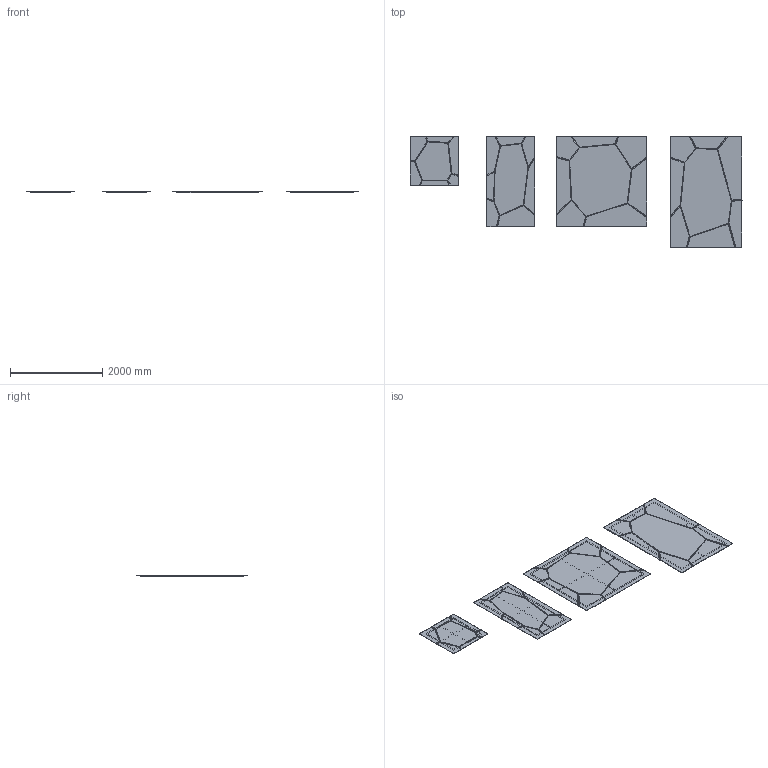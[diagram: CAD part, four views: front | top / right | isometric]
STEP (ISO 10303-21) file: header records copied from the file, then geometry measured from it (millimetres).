
FILE_DESCRIPTION(/* description */ (''),/* implementation_level */ '2;1');
FILE_NAME(/* name */ 'specchi-Levy',/* time_stamp */ '2023-03-08T17:57:36+01:00',/* author */ (''),/* organization */ (''),/* preprocessor_version */ 'ST-DEVELOPER v16.5',/* originating_system */ '',/* authorisation */ '');
FILE_SCHEMA (('AUTOMOTIVE_DESIGN'));
Length unit declared in the file: millimetre
Products named in the file (1): Document
Bounding box: 7210.08 x 2400 x 41 mm (x, y, z)
Volume: 131981065.5 mm3; surface area: 35059540.4 mm2
Topology: 24 solids, 24 shells, 1058 faces, 2618 edges, 1550 vertices
Faces by surface type: bspline 745, plane 313
Entity records: 43574 total; most frequent: CARTESIAN_POINT 28669, ORIENTED_EDGE 5128, EDGE_CURVE 2564, VERTEX_POINT 1550, B_SPLINE_CURVE_WITH_KNOTS 1255, EDGE_LOOP 1062, ADVANCED_FACE 1058, FACE_OUTER_BOUND 1058
